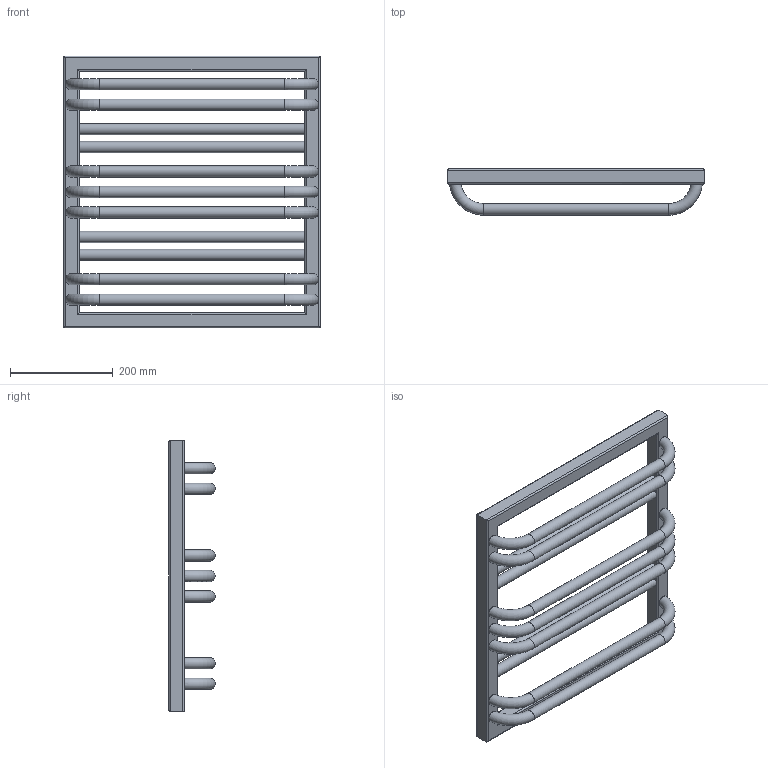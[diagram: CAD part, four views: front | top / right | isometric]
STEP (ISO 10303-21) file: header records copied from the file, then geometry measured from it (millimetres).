
FILE_DESCRIPTION((''),'2;1');
FILE_NAME('Z:\R\G\P\RGPH18 - Grzejnik POC\Work\Inventor\POC 1-6-8 v2.0\Marketing\AutoCad 3D\POC-530-500-1-6-8.stp','2012-07-12T14:39:52',('KurKa'),(''),'Autodesk Inventor 2012','Autodesk Inventor 2012','');
FILE_SCHEMA(('AUTOMOTIVE_DESIGN { 1 0 10303 214 1 1 1 1 }'));
Length unit declared in the file: millimetre
Products named in the file (1): POC-530-500-1-6-8
Bounding box: 500 x 90 x 530 mm (x, y, z)
Volume: 3780102.8 mm3; surface area: 589983.7 mm2
Topology: 1 solids, 1 shells, 60 faces, 146 edges, 91 vertices
Faces by surface type: cylinder 30, torus 17, plane 13
Full cylindrical faces by diameter (mm): 18.631 x3, 22 x11
Entity records: 2420 total; most frequent: CARTESIAN_POINT 1149, DIRECTION 256, ORIENTED_EDGE 202, EDGE_LOOP 118, AXIS2_PLACEMENT_3D 108, EDGE_CURVE 101, VERTEX_POINT 77, FACE_OUTER_BOUND 60
